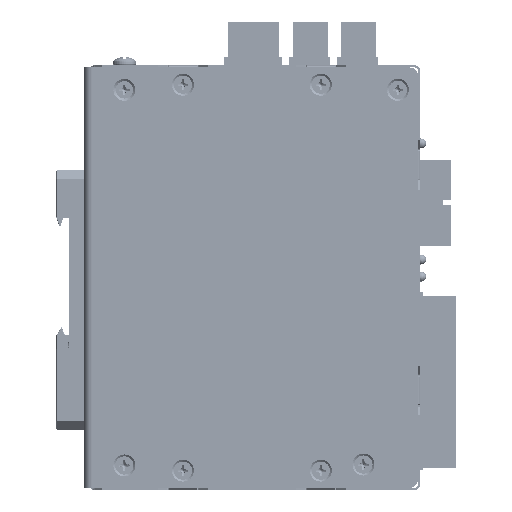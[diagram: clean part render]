
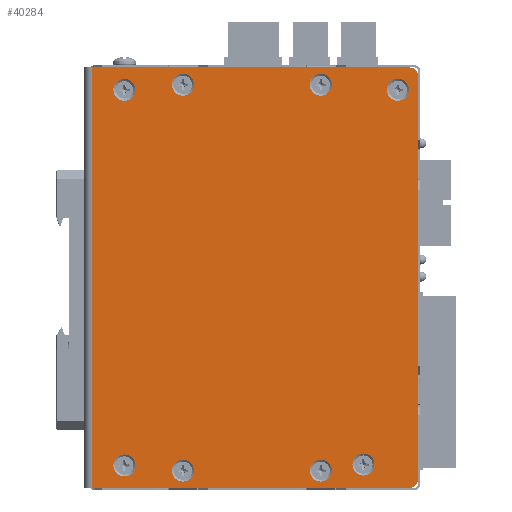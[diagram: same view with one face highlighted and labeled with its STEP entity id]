
A CAD part, left-side view. The second image highlights one B-rep face of the part: STEP entity #40284.
In plain terms, the highlighted planar face has unit normal (-1, 0, 0).
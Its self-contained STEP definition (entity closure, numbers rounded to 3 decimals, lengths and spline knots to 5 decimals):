
#2539=CIRCLE('',#45878,0.00324);
#2540=CIRCLE('',#45879,0.00324);
#2541=CIRCLE('',#45880,0.00324);
#2542=CIRCLE('',#45881,0.00324);
#2543=CIRCLE('',#45882,0.00324);
#2544=CIRCLE('',#45883,0.00324);
#2545=CIRCLE('',#45884,0.00324);
#2546=CIRCLE('',#45885,0.00324);
#2547=CIRCLE('',#45886,0.00254);
#2548=CIRCLE('',#45887,0.00254);
#6280=LINE('',#75595,#10064);
#6284=LINE('',#75604,#10068);
#6290=LINE('',#75618,#10074);
#6292=LINE('',#75640,#10076);
#10064=VECTOR('',#55993,1.);
#10068=VECTOR('',#55999,1.);
#10074=VECTOR('',#56007,1.);
#10076=VECTOR('',#56031,1.);
#20336=ORIENTED_EDGE('',*,*,#26372,.F.);
#20337=ORIENTED_EDGE('',*,*,#26373,.F.);
#20338=ORIENTED_EDGE('',*,*,#26374,.F.);
#20339=ORIENTED_EDGE('',*,*,#26375,.F.);
#20340=ORIENTED_EDGE('',*,*,#26376,.F.);
#20341=ORIENTED_EDGE('',*,*,#26377,.F.);
#20342=ORIENTED_EDGE('',*,*,#26378,.F.);
#20343=ORIENTED_EDGE('',*,*,#26379,.F.);
#20344=ORIENTED_EDGE('',*,*,#26370,.F.);
#20345=ORIENTED_EDGE('',*,*,#26380,.T.);
#20346=ORIENTED_EDGE('',*,*,#26360,.T.);
#20347=ORIENTED_EDGE('',*,*,#26381,.T.);
#20348=ORIENTED_EDGE('',*,*,#26364,.T.);
#20349=ORIENTED_EDGE('',*,*,#26382,.F.);
#26360=EDGE_CURVE('',#30328,#30329,#6280,.T.);
#26364=EDGE_CURVE('',#30332,#30333,#6284,.T.);
#26370=EDGE_CURVE('',#30338,#30339,#6290,.T.);
#26372=EDGE_CURVE('',#30340,#30340,#2539,.T.);
#26373=EDGE_CURVE('',#30341,#30341,#2540,.T.);
#26374=EDGE_CURVE('',#30342,#30342,#2541,.T.);
#26375=EDGE_CURVE('',#30343,#30343,#2542,.T.);
#26376=EDGE_CURVE('',#30344,#30344,#2543,.T.);
#26377=EDGE_CURVE('',#30345,#30345,#2544,.T.);
#26378=EDGE_CURVE('',#30346,#30346,#2545,.T.);
#26379=EDGE_CURVE('',#30347,#30347,#2546,.T.);
#26380=EDGE_CURVE('',#30338,#30328,#2547,.T.);
#26381=EDGE_CURVE('',#30329,#30332,#2548,.T.);
#26382=EDGE_CURVE('',#30339,#30333,#6292,.F.);
#30328=VERTEX_POINT('',#75596);
#30329=VERTEX_POINT('',#75597);
#30332=VERTEX_POINT('',#75605);
#30333=VERTEX_POINT('',#75606);
#30338=VERTEX_POINT('',#75617);
#30339=VERTEX_POINT('',#75619);
#30340=VERTEX_POINT('',#75623);
#30341=VERTEX_POINT('',#75625);
#30342=VERTEX_POINT('',#75627);
#30343=VERTEX_POINT('',#75629);
#30344=VERTEX_POINT('',#75631);
#30345=VERTEX_POINT('',#75633);
#30346=VERTEX_POINT('',#75635);
#30347=VERTEX_POINT('',#75637);
#33623=EDGE_LOOP('',(#20336));
#33624=EDGE_LOOP('',(#20337));
#33625=EDGE_LOOP('',(#20338));
#33626=EDGE_LOOP('',(#20339));
#33627=EDGE_LOOP('',(#20340));
#33628=EDGE_LOOP('',(#20341));
#33629=EDGE_LOOP('',(#20342));
#33630=EDGE_LOOP('',(#20343));
#33631=EDGE_LOOP('',(#20344,#20345,#20346,#20347,#20348,#20349));
#36637=FACE_BOUND('',#33623,.T.);
#36638=FACE_BOUND('',#33624,.T.);
#36639=FACE_BOUND('',#33625,.T.);
#36640=FACE_BOUND('',#33626,.T.);
#36641=FACE_BOUND('',#33627,.T.);
#36642=FACE_BOUND('',#33628,.T.);
#36643=FACE_BOUND('',#33629,.T.);
#36644=FACE_BOUND('',#33630,.T.);
#36645=FACE_BOUND('',#33631,.T.);
#38222=PLANE('',#45877);
#40284=ADVANCED_FACE('',(#36637,#36638,#36639,#36640,#36641,#36642,#36643,
#36644,#36645),#38222,.T.);
#45877=AXIS2_PLACEMENT_3D('',#75621,#56009,#56010);
#45878=AXIS2_PLACEMENT_3D('',#75622,#56011,#56012);
#45879=AXIS2_PLACEMENT_3D('',#75624,#56013,#56014);
#45880=AXIS2_PLACEMENT_3D('',#75626,#56015,#56016);
#45881=AXIS2_PLACEMENT_3D('',#75628,#56017,#56018);
#45882=AXIS2_PLACEMENT_3D('',#75630,#56019,#56020);
#45883=AXIS2_PLACEMENT_3D('',#75632,#56021,#56022);
#45884=AXIS2_PLACEMENT_3D('',#75634,#56023,#56024);
#45885=AXIS2_PLACEMENT_3D('',#75636,#56025,#56026);
#45886=AXIS2_PLACEMENT_3D('',#75638,#56027,#56028);
#45887=AXIS2_PLACEMENT_3D('',#75639,#56029,#56030);
#55993=DIRECTION('',(0.,0.,1.));
#55999=DIRECTION('',(0.,1.,0.));
#56007=DIRECTION('',(0.,1.,0.));
#56009=DIRECTION('',(-1.,0.,0.));
#56010=DIRECTION('',(0.,0.,1.));
#56011=DIRECTION('',(-1.,0.,0.));
#56012=DIRECTION('',(0.,0.,1.));
#56013=DIRECTION('',(-1.,0.,0.));
#56014=DIRECTION('',(0.,0.,1.));
#56015=DIRECTION('',(-1.,0.,0.));
#56016=DIRECTION('',(0.,0.,1.));
#56017=DIRECTION('',(-1.,0.,0.));
#56018=DIRECTION('',(0.,0.,1.));
#56019=DIRECTION('',(-1.,0.,0.));
#56020=DIRECTION('',(0.,0.,1.));
#56021=DIRECTION('',(-1.,0.,0.));
#56022=DIRECTION('',(0.,0.,1.));
#56023=DIRECTION('',(-1.,0.,0.));
#56024=DIRECTION('',(0.,0.,1.));
#56025=DIRECTION('',(-1.,0.,0.));
#56026=DIRECTION('',(0.,0.,1.));
#56027=DIRECTION('',(-1.,0.,0.));
#56028=DIRECTION('',(0.,0.,1.));
#56029=DIRECTION('',(-1.,0.,0.));
#56030=DIRECTION('',(0.,0.,1.));
#56031=DIRECTION('',(0.,0.,-1.));
#75595=CARTESIAN_POINT('',(-0.01524,-0.09703,0.));
#75596=CARTESIAN_POINT('',(-0.01524,-0.09703,-0.05944));
#75597=CARTESIAN_POINT('',(-0.01524,-0.09703,0.05944));
#75604=CARTESIAN_POINT('',(-0.01524,-0.09703,0.06198));
#75605=CARTESIAN_POINT('',(-0.01524,-0.09449,0.06198));
#75606=CARTESIAN_POINT('',(-0.01524,-0.00102,0.06198));
#75617=CARTESIAN_POINT('',(-0.01524,-0.09449,-0.06198));
#75618=CARTESIAN_POINT('',(-0.01524,-0.09703,-0.06198));
#75619=CARTESIAN_POINT('',(-0.01524,-0.00102,-0.06198));
#75621=CARTESIAN_POINT('',(-0.01524,-0.09703,0.));
#75622=CARTESIAN_POINT('',(-0.01524,-0.02769,0.0569));
#75623=CARTESIAN_POINT('',(-0.01524,-0.02769,0.06013));
#75624=CARTESIAN_POINT('',(-0.01524,-0.06833,0.0569));
#75625=CARTESIAN_POINT('',(-0.01524,-0.06833,0.06013));
#75626=CARTESIAN_POINT('',(-0.01524,-0.09106,0.05537));
#75627=CARTESIAN_POINT('',(-0.01524,-0.09106,0.05861));
#75628=CARTESIAN_POINT('',(-0.01524,-0.0809,-0.05512));
#75629=CARTESIAN_POINT('',(-0.01524,-0.0809,-0.05188));
#75630=CARTESIAN_POINT('',(-0.01524,-0.06833,-0.0569));
#75631=CARTESIAN_POINT('',(-0.01524,-0.06833,-0.05366));
#75632=CARTESIAN_POINT('',(-0.01524,-0.02769,-0.0569));
#75633=CARTESIAN_POINT('',(-0.01524,-0.02769,-0.05366));
#75634=CARTESIAN_POINT('',(-0.01524,-0.01041,-0.05537));
#75635=CARTESIAN_POINT('',(-0.01524,-0.01041,-0.05213));
#75636=CARTESIAN_POINT('',(-0.01524,-0.01041,0.05537));
#75637=CARTESIAN_POINT('',(-0.01524,-0.01041,0.05861));
#75638=CARTESIAN_POINT('',(-0.01524,-0.09449,-0.05944));
#75639=CARTESIAN_POINT('',(-0.01524,-0.09449,0.05944));
#75640=CARTESIAN_POINT('',(-0.01524,-0.00102,0.));
